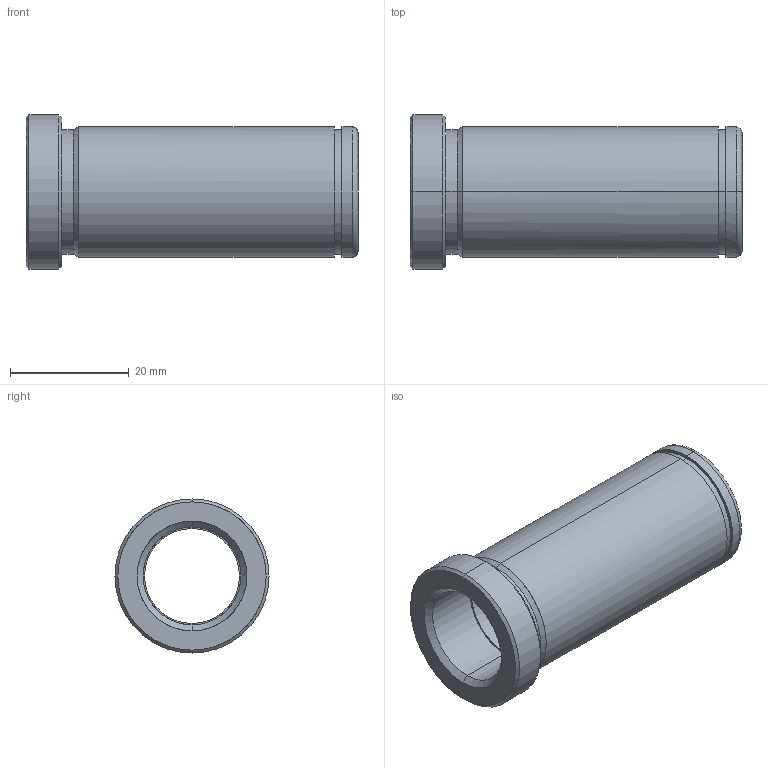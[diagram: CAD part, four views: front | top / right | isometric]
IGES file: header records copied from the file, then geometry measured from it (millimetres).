
Start section: START RECORD GO HERE.
Global section: file name: 553-16X56.igs; native system: DASSAULT SYSTEMES CATIA V5 R20 - www.3ds.com; preprocessor: CATIA Version 5 Release 20 ; author: Utente; organization: NB04-ASUS; date: 20210521.205550; units: millimetre
Bounding box: 56 x 26 x 26 mm (x, y, z)
Surface area: 7395.8 mm2 (no closed solid volume)
Topology: 0 solids, 0 shells, 32 faces, 204 edges, 204 vertices
Faces by surface type: revolution 26, plane 6
